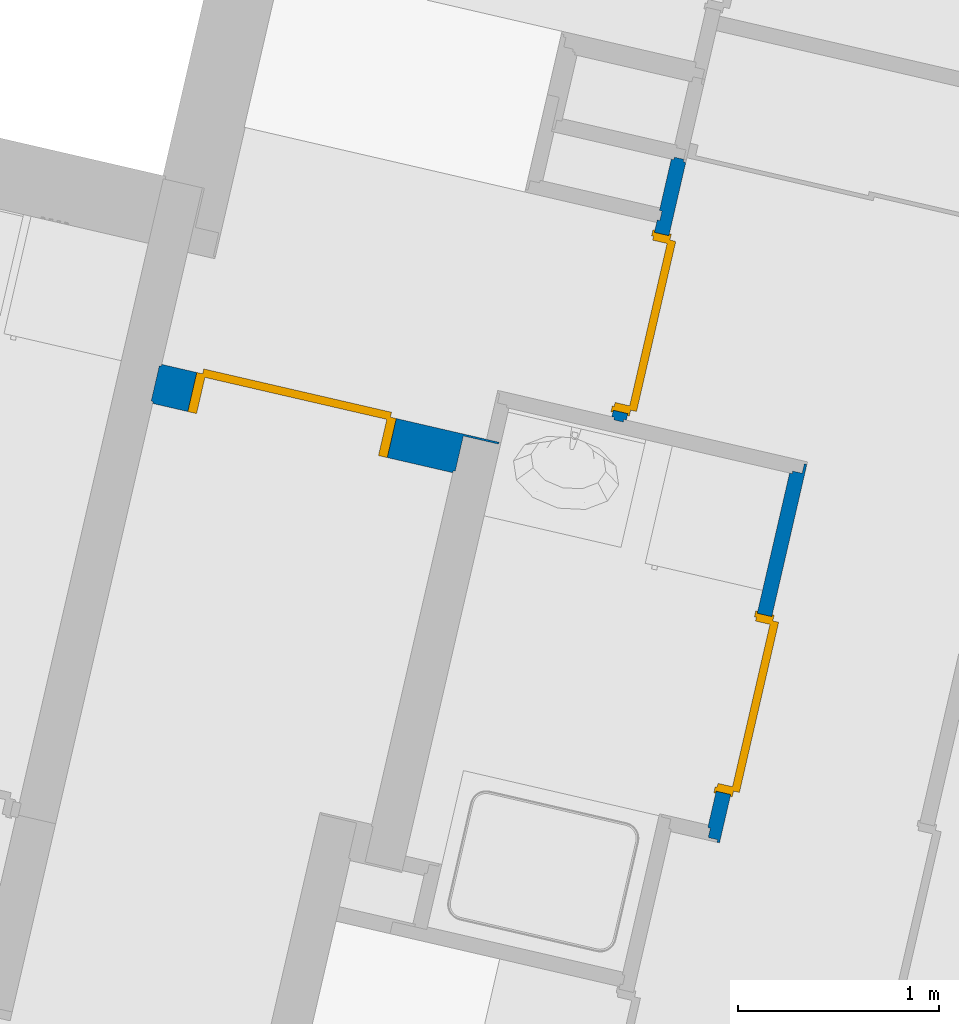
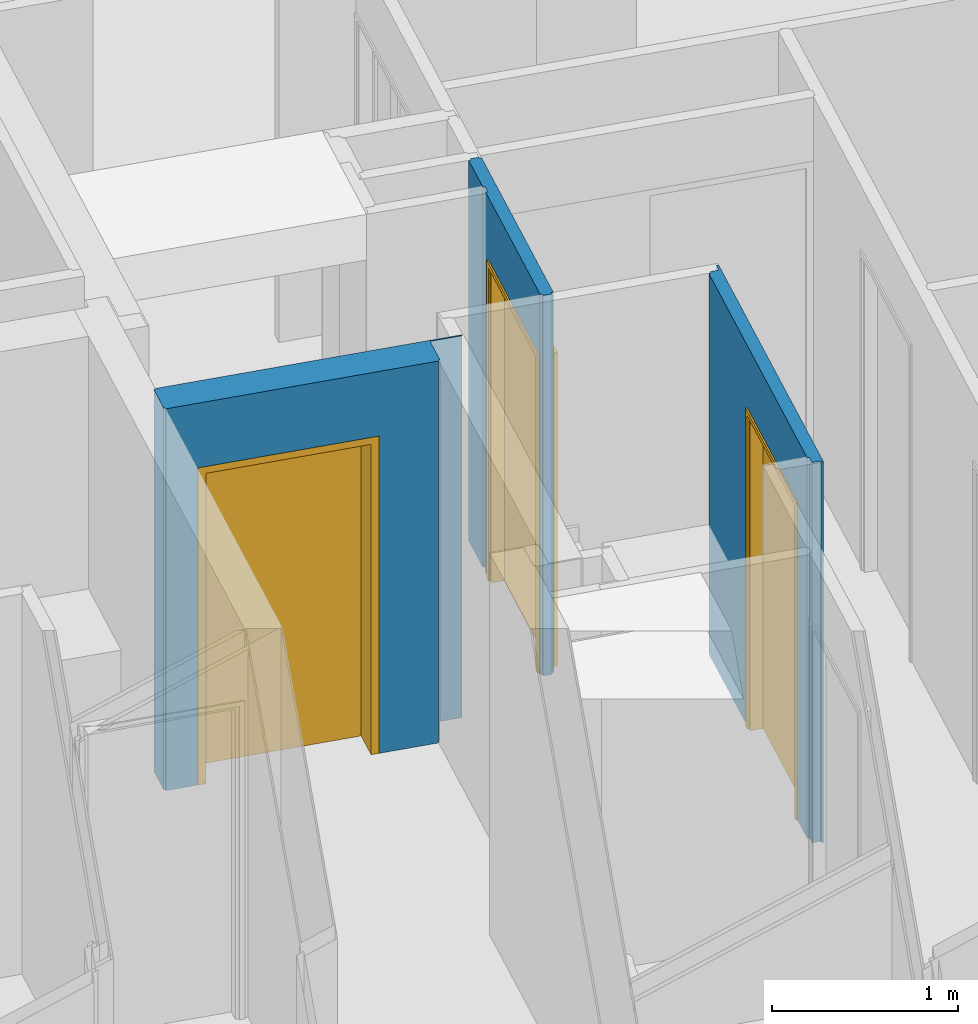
# One storey, part 28 of 91: 3 doors, 3 walls, 3 openings.
"""IFC2X3 building model written with IfcOpenShell, lengths in metres."""

import ifcopenshell
import ifcopenshell.guid

model = None  # the IFC model being written
_history = None  # IfcOwnerHistory: only IFC2X3 demands one
_inside = {}  # id of a spatial element -> (the spatial element, [elements in it])
_under = {}  # id of a project, library or spatial element -> (it, [spatial elements below it])
_declared = {}  # id of a project -> (the project, [libraries it declares])
_typed = {}  # id of a type object -> (the type object, [elements of that type])
_made_of = {}  # id of a material, layer set ... -> (it, [elements and type objects made of it])


def new_model(schema):
    """Start an empty IFC model of exactly this schema.

    Asked for "IFC4X3", IfcOpenShell would pick the latest addendum, in which some entities
    have other attributes; the version numbers below select the first issue.
    IFC2X3 requires an IfcOwnerHistory on every rooted entity: one is made here for all.
    """
    global model, _history
    if schema == "IFC4X3":
        model = ifcopenshell.file(schema_version=(4, 3, 0, 0))
    else:
        model = ifcopenshell.file(schema=schema)
    _inside.clear()
    _under.clear()
    _declared.clear()
    _typed.clear()
    _made_of.clear()
    _history = None
    if model.schema == "IFC2X3":
        org = make("IfcOrganization", Name="unknown")
        user = make(
            "IfcPersonAndOrganization",
            ThePerson=make("IfcPerson", FamilyName="unknown"),
            TheOrganization=org,
        )
        app = make(
            "IfcApplication",
            ApplicationDeveloper=org,
            Version="unknown",
            ApplicationFullName="unknown",
            ApplicationIdentifier="unknown",
        )
        _history = make(
            "IfcOwnerHistory",
            OwningUser=user,
            OwningApplication=app,
            ChangeAction="ADDED",
            CreationDate=0,
        )
    return model


def make(cls, **values):
    """One entity of the class cls with the attributes given. An attribute that is None is left unset."""
    return model.create_entity(
        cls, **{name: value for name, value in values.items() if value is not None}
    )


def entity(cls, *values):
    """Any entity or typed value of the class cls, its attributes in the order of the schema. None: left unset."""
    e = model.create_entity(cls)
    for i, value in enumerate(values):
        if value is not None:
            e[i] = value
    return e


def rooted(cls, **values):
    """An entity with a GlobalId (a new one), such as an element, a storey or a relation."""
    return make(cls, GlobalId=ifcopenshell.guid.new(), OwnerHistory=_history, **values)


def si_unit(unit_type, name, prefix=None):
    """IfcSIUnit, for example si_unit("LENGTHUNIT", "METRE", prefix="MILLI")."""
    return make("IfcSIUnit", UnitType=unit_type, Prefix=prefix, Name=name)


def converted_unit(unit_type, name, factor, base, dimensions=None, offset=None):
    """IfcConversionBasedUnit, such as the inch: factor (a typed value) times the base unit."""
    return make(
        "IfcConversionBasedUnit"
        if offset is None
        else "IfcConversionBasedUnitWithOffset",
        ConversionOffset=offset,
        Dimensions=None
        if dimensions is None
        else entity("IfcDimensionalExponents", *dimensions),
        UnitType=unit_type,
        Name=name,
        ConversionFactor=make(
            "IfcMeasureWithUnit", ValueComponent=factor, UnitComponent=base
        ),
    )


def derived_unit(unit_type, elements):
    """IfcDerivedUnit: a product of units, each with its exponent."""
    return make(
        "IfcDerivedUnit",
        Elements=[
            make("IfcDerivedUnitElement", Unit=unit, Exponent=power)
            for unit, power in elements
        ],
        UnitType=unit_type,
    )


def money_unit(currency):
    """IfcMonetaryUnit."""
    return make("IfcMonetaryUnit", Currency=currency)


def assignment(units):
    """IfcUnitAssignment: the units of a project."""
    return None if units is None else make("IfcUnitAssignment", Units=units)


def point(xyz):
    """IfcCartesianPoint."""
    return None if xyz is None else make("IfcCartesianPoint", Coordinates=xyz)


def direction(xyz):
    """IfcDirection."""
    return None if xyz is None else make("IfcDirection", DirectionRatios=xyz)


def frame(location, z_axis=None, x_axis=None):
    """IfcAxis2Placement3D, a coordinate frame: its origin and axes. An axis left out is left unset."""
    return make(
        "IfcAxis2Placement3D",
        Location=point(location),
        Axis=direction(z_axis),
        RefDirection=direction(x_axis),
    )


def origin_with_axes():
    """The frame at (0, 0, 0) with the z axis (0, 0, 1) and the x axis (1, 0, 0) written out."""
    return frame((0.0, 0.0, 0.0), z_axis=(0.0, 0.0, 1.0), x_axis=(1.0, 0.0, 0.0))


def place(relative_to, where):
    """IfcLocalPlacement: puts the frame where relative to a parent placement (None: the world)."""
    return make(
        "IfcLocalPlacement", PlacementRelTo=relative_to, RelativePlacement=where
    )


def context(
    kind, dimensions, precision=None, world=None, true_north=None, identifier=None
):
    """IfcGeometricRepresentationContext, for example the 3D "Model" context."""
    return make(
        "IfcGeometricRepresentationContext",
        ContextIdentifier=identifier,
        ContextType=kind,
        CoordinateSpaceDimension=dimensions,
        Precision=precision,
        WorldCoordinateSystem=world,
        TrueNorth=true_north,
    )


def subcontext(parent, identifier, kind, view, scale=None):
    """IfcGeometricRepresentationSubContext, for example "Body" below "Model"."""
    return make(
        "IfcGeometricRepresentationSubContext",
        ContextIdentifier=identifier,
        ContextType=kind,
        ParentContext=parent,
        TargetScale=scale,
        TargetView=view,
    )


def project(units=None, contexts=None):
    """IfcProject with its units and contexts."""
    return rooted(
        "IfcProject",
        Name="project",
        RepresentationContexts=contexts,
        UnitsInContext=assignment(units),
    )


def spatial(cls, under=None, at=None, **own):
    """A site, building, storey or space (cls), placed at a placement, below another one or the project."""
    s = rooted(cls, ObjectPlacement=at, **own)
    if under is not None:
        _under.setdefault(under.id(), (under, []))[1].append(s)
    return s


def faces_of(points, faces, orient=None, outer=None):
    """IfcFace entities. A face is a list of loops; a loop is a list of indices into points, from 0.

    orient and outer hold one flag for each loop. By default every Orientation is true, the
    first loop of a face is its IfcFaceOuterBound and the others are IfcFaceBound.
    """
    made = []
    for i, loops in enumerate(faces):
        bounds = []
        for j, loop in enumerate(loops):
            is_outer = j == 0 if outer is None else outer[i][j]
            bounds.append(
                make(
                    "IfcFaceOuterBound" if is_outer else "IfcFaceBound",
                    Bound=make("IfcPolyLoop", Polygon=[points[k] for k in loop]),
                    Orientation=True if orient is None else orient[i][j],
                )
            )
        made.append(make("IfcFace", Bounds=bounds))
    return made


def faceted_brep(points, faces, orient=None, outer=None, voids=None):
    """IfcFacetedBrep: a solid bounded by flat faces; with voids (closed shells), ...WithVoids."""
    shared = [point(p) for p in points]
    hull = make("IfcClosedShell", CfsFaces=faces_of(shared, faces, orient, outer))
    if voids is None:
        return make("IfcFacetedBrep", Outer=hull)
    return make(
        "IfcFacetedBrepWithVoids",
        Outer=hull,
        Voids=[
            make(cls, CfsFaces=faces_of(shared, fs, o, b)) for cls, fs, o, b in voids
        ],
    )


def shape(context_of_items, identifier, shape_type, items):
    """IfcShapeRepresentation: the items that make up one representation, for example the "Body"."""
    return make(
        "IfcShapeRepresentation",
        ContextOfItems=context_of_items,
        RepresentationIdentifier=identifier,
        RepresentationType=shape_type,
        Items=items,
    )


def source(mapping_origin, context_of_items, identifier, shape_type, items):
    """IfcRepresentationMap: a shape defined once, which mapped items show again and again."""
    return make(
        "IfcRepresentationMap",
        MappingOrigin=mapping_origin,
        MappedRepresentation=shape(context_of_items, identifier, shape_type, items),
    )


def transform(
    local_origin,
    x_axis=None,
    y_axis=None,
    z_axis=None,
    scale=None,
    scale2=None,
    scale3=None,
    uniform=True,
):
    """IfcCartesianTransformationOperator3D, or its non-uniform kind. x_axis, y_axis, z_axis: its Axis1, 2, 3."""
    if uniform:
        return make(
            "IfcCartesianTransformationOperator3D",
            Axis1=direction(x_axis),
            Axis2=direction(y_axis),
            LocalOrigin=point(local_origin),
            Scale=scale,
            Axis3=direction(z_axis),
        )
    return make(
        "IfcCartesianTransformationOperator3DnonUniform",
        Axis1=direction(x_axis),
        Axis2=direction(y_axis),
        LocalOrigin=point(local_origin),
        Scale=scale,
        Axis3=direction(z_axis),
        Scale2=scale2,
        Scale3=scale3,
    )


def mapped(mapping_source, mapping_target):
    """IfcMappedItem: shows the shape of a source again, moved by a transform."""
    return make(
        "IfcMappedItem", MappingSource=mapping_source, MappingTarget=mapping_target
    )


def material(Name=None, Category=None):
    """IfcMaterial."""
    return make("IfcMaterial", Name=Name, Category=Category)


def material_list(materials):
    """IfcMaterialList."""
    return make("IfcMaterialList", Materials=materials)


def made_of(thing, what):
    """Note that an element or type object is made of a material, layer set ...; save() writes the relation."""
    if what is not None:
        _made_of.setdefault(what.id(), (what, []))[1].append(thing)
    return thing


def type_object(cls, material=None, **own):
    """A type object (cls), such as IfcWallType, which elements share."""
    return made_of(rooted(cls, **own), material)


def element(
    cls,
    number,
    at=None,
    inside=None,
    cuts=None,
    type_object=None,
    material=None,
    context=None,
    identifier="Body",
    shape_type=None,
    held_by="IfcProductDefinitionShape",
    body=None,
    shapes=None,
    **own,
):
    """One element of the class cls, such as IfcWall. Its Tag is "e" and its number.

    at: its placement. inside: the storey or other place that contains it. cuts: it is an
    opening in that element (IfcRelVoidsElement). A single representation is given by context,
    identifier, shape_type and body (its items); several are given by shapes. held_by: the class
    of the entity that holds the representations. save() writes the other relations.
    """
    e = rooted(cls, Tag="e%d" % number, ObjectPlacement=at, **own)
    if body is not None:
        shapes = [shape(context, identifier, shape_type, body)]
    if shapes is not None:
        e.Representation = make(held_by, Representations=shapes)
    if inside is not None:
        _inside.setdefault(inside.id(), (inside, []))[1].append(e)
    if cuts is not None:
        rooted(
            "IfcRelVoidsElement", RelatingBuildingElement=cuts, RelatedOpeningElement=e
        )
    if type_object is not None:
        _typed.setdefault(type_object.id(), (type_object, []))[1].append(e)
    return made_of(e, material)


def fill(opening, filler):
    """IfcRelFillsElement: the door or window that sits in an opening."""
    return rooted(
        "IfcRelFillsElement",
        RelatingOpeningElement=opening,
        RelatedBuildingElement=filler,
    )


def aggregate(whole, parts):
    """IfcRelAggregates: a whole, such as a stair, and the parts it consists of."""
    return rooted("IfcRelAggregates", RelatingObject=whole, RelatedObjects=parts)


def save(model, path):
    """Write the relations noted so far, then the file.

    IfcRelAggregates (storeys below a building ...), IfcRelContainedInSpatialStructure (elements
    in a storey), IfcRelDefinesByType, IfcRelAssociatesMaterial and IfcRelDeclares: one each for
    every whole, place, type object, material and project.
    """
    for whole, parts in _under.values():
        aggregate(whole, parts)
    for where, things in _inside.values():
        rooted(
            "IfcRelContainedInSpatialStructure",
            RelatedElements=things,
            RelatingStructure=where,
        )
    for kind, things in _typed.values():
        rooted("IfcRelDefinesByType", RelatedObjects=things, RelatingType=kind)
    for what, things in _made_of.values():
        rooted("IfcRelAssociatesMaterial", RelatedObjects=things, RelatingMaterial=what)
    for by, libraries in _declared.values():
        rooted("IfcRelDeclares", RelatingContext=by, RelatedDefinitions=libraries)
    model.write(path)


model = new_model("IFC2X3")

# Units and contexts
model_context = context("Model", 3, precision=1e-05, world=origin_with_axes(), true_north=direction((0.0, 1.0)))
body_context = subcontext(model_context, "Body", "Model", "MODEL_VIEW")
ifc_project = project(units=[si_unit("LENGTHUNIT", "METRE"), si_unit("AREAUNIT", "SQUARE_METRE"), si_unit("VOLUMEUNIT", "CUBIC_METRE"), converted_unit("PLANEANGLEUNIT", "DEGREE", entity("IfcPlaneAngleMeasure", 0.0174532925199), si_unit("PLANEANGLEUNIT", "RADIAN"), dimensions=[0, 0, 0, 0, 0, 0, 0]), si_unit("SOLIDANGLEUNIT", "STERADIAN"), money_unit("EUR"), converted_unit("TIMEUNIT", "Year", entity("IfcTimeMeasure", 31556926.0), si_unit("TIMEUNIT", "SECOND"), dimensions=[0, 0, 1, 0, 0, 0, 0]), si_unit("MASSUNIT", "GRAM", prefix="KILO"), si_unit("THERMODYNAMICTEMPERATUREUNIT", "DEGREE_CELSIUS"), si_unit("LUMINOUSINTENSITYUNIT", "LUMEN"), si_unit("ENERGYUNIT", "JOULE", prefix="MEGA"), derived_unit("THERMALCONDUCTANCEUNIT", [(si_unit("POWERUNIT", "WATT"), 1), (si_unit("LENGTHUNIT", "METRE"), -1), (si_unit("THERMODYNAMICTEMPERATUREUNIT", "KELVIN"), -1)]), derived_unit("SPECIFICHEATCAPACITYUNIT", [(si_unit("ENERGYUNIT", "JOULE"), 1), (si_unit("MASSUNIT", "GRAM", prefix="KILO"), -1), (si_unit("THERMODYNAMICTEMPERATUREUNIT", "KELVIN"), -1)]), derived_unit("MASSDENSITYUNIT", [(si_unit("MASSUNIT", "GRAM", prefix="KILO"), 1), (si_unit("VOLUMEUNIT", "CUBIC_METRE"), -1)])], contexts=[model_context])

# Site, building, storey
site_placement = place(None, origin_with_axes())
site = spatial("IfcSite", under=ifc_project, at=site_placement, Name="Site", CompositionType="ELEMENT")
building_placement = place(site_placement, origin_with_axes())
building = spatial("IfcBuilding", under=site, at=building_placement, Name="Bâtiment", CompositionType="ELEMENT")
storey_placement = place(building_placement, frame((0.0, 0.0, 5.44), z_axis=(0.0, 0.0, 1.0), x_axis=(1.0, 0.0, 0.0)))
storey = spatial("IfcBuildingStorey", under=building, at=storey_placement, Name="R+2", CompositionType="ELEMENT", Elevation=5.44)

# Wall, opening, door
ifc_material_1 = material(Name="Finition int - Plaque de plâtre")
ifc_material_2 = material(Name="Isolation - Laine de roche")
ifc_material_list_1 = material_list([ifc_material_1, ifc_material_2, ifc_material_1])
wall_type_1 = type_object("IfcWallType", Name="3 - Cloison 72mm Placostil 74", PredefinedType="USERDEFINED")
wall_1_placement = place(storey_placement, frame((-5.66502169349, 11.8867106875, 0.0), z_axis=(0.0, 0.0, 1.0), x_axis=(-0.224876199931, -0.97438734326, 0.0)))
wall_1 = element("IfcWall", 1, at=wall_1_placement, inside=storey, type_object=wall_type_1, material=ifc_material_list_1, Name="Cloison Placostil 72/48", ObjectType="PARTITIONING", context=body_context, shape_type="Brep", body=[
    faceted_brep([(1.28450400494, 0.074, 0.0), (1.28450400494, 0.074, 2.08), (0.374504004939, 0.074, 2.08), (0.374504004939, 0.074, 0.0), (0.0, 0.074, 0.0), (0.0, 0.074, 2.5), (1.31746683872, 0.074, 2.5), (1.31746683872, 0.074, 0.0), (1.28450400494, 0.061, 0.0), (1.28450400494, 0.061, 2.08), (0.374504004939, 0.061, 2.08), (0.374504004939, 0.061, 0.0), (0.0, 0.061, 0.0), (0.0, 0.061, 2.5), (1.31746683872, 0.061, 2.5), (1.31746683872, 0.061, 0.0)], [[[0, 1, 2, 3, 4, 5, 6, 7]], [[1, 0, 8, 9]], [[2, 1, 9, 10]], [[3, 2, 10, 11]], [[3, 11, 12, 4]], [[13, 5, 4, 12]], [[5, 13, 14, 6]], [[14, 15, 7, 6]], [[8, 0, 7, 15]], [[9, 8, 15, 14, 13, 12, 11, 10]]]),
    faceted_brep([(1.28450400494, 0.061, 0.0), (1.28450400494, 0.061, 2.08), (0.374504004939, 0.061, 2.08), (0.374504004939, 0.061, 0.0), (-0.0129999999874, 0.061, 0.0), (-0.0129999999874, 0.061, 2.5), (1.33046683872, 0.061, 2.5), (1.33046683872, 0.061, 0.0), (1.28450400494, 0.013, 0.0), (1.28450400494, 0.013, 2.08), (0.374504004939, 0.013, 2.08), (0.374504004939, 0.013, 0.0), (-0.0129999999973, 0.013, 0.0), (-0.0129999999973, 0.013, 2.5), (1.33046683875, 0.013, 2.5), (1.33046683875, 0.013, 0.0)], [[[0, 1, 2, 3, 4, 5, 6, 7]], [[1, 0, 8, 9]], [[2, 1, 9, 10]], [[3, 2, 10, 11]], [[3, 11, 12, 4]], [[13, 5, 4, 12]], [[5, 13, 14, 6]], [[14, 15, 7, 6]], [[8, 0, 7, 15]], [[9, 8, 15, 14, 13, 12, 11, 10]]]),
    faceted_brep([(0.263000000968, 0.013, 0.0), (0.0, 0.013, 0.0), (0.0, 0.013, 2.5), (0.263000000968, 0.013, 2.5), (0.263000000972, 0.0, 0.0), (0.0, 0.0, 0.0), (0.0, 0.0, 2.5), (0.263000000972, 0.0, 2.5)], [[[0, 1, 2, 3]], [[4, 5, 1, 0]], [[5, 6, 2, 1]], [[3, 2, 6, 7]], [[3, 7, 4, 0]], [[7, 6, 5, 4]]]),
    faceted_brep([(1.28450400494, 0.013, 0.0), (1.28450400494, 0.013, 2.08), (0.374504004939, 0.013, 2.08), (0.374504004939, 0.013, 0.0), (0.311000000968, 0.013, 0.0), (0.311000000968, 0.013, 2.5), (1.31746683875, 0.013, 2.5), (1.31746683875, 0.013, 0.0), (1.28450400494, 0.0, 0.0), (1.28450400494, 0.0, 2.08), (0.374504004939, 0.0, 2.08), (0.374504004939, 0.0, 0.0), (0.311000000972, 0.0, 0.0), (0.311000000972, 0.0, 2.5), (1.31746683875, 0.0, 2.5), (1.31746683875, 0.0, 0.0)], [[[0, 1, 2, 3, 4, 5, 6, 7]], [[1, 0, 8, 9]], [[2, 1, 9, 10]], [[3, 2, 10, 11]], [[3, 11, 12, 4]], [[12, 13, 5, 4]], [[13, 14, 6, 5]], [[15, 7, 6, 14]], [[8, 0, 7, 15]], [[9, 8, 15, 14, 13, 12, 11, 10]]]),
])
opening_1_placement = place(wall_1_placement, frame((0.829504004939, 0.0, 0.0), z_axis=(0.0, 0.0, 1.0), x_axis=(1.0, 0.0, 0.0)))
opening_1 = element("IfcOpeningElement", 2, at=opening_1_placement, cuts=wall_1, Name="Por-004", context=body_context, shape_type="Brep", body=[
    faceted_brep([(0.455, -0.074, 0.0), (-0.455, -0.074, 0.0), (-0.455, 0.074, 0.0), (0.455, 0.074, 0.0), (0.455, -0.074, 2.08), (-0.455, -0.074, 2.08), (-0.455, 0.074, 2.08), (0.455, 0.074, 2.08)], [[[0, 1, 2, 3]], [[0, 4, 5, 1]], [[1, 5, 6, 2]], [[3, 2, 6, 7]], [[4, 0, 3, 7]], [[5, 4, 7, 6]]]),
])
door_style_1 = type_object("IfcDoorStyle", Name="Porte int générique 2019", ConstructionType="NOTDEFINED", OperationType="SINGLE_SWING_RIGHT", ParameterTakesPrecedence=False, Sizeable=False)
shared_shape_1 = source(origin_with_axes(), body_context, "Body", "Brep", [
    faceted_brep([(0.455, -0.006, 0.0), (0.415, -0.006, 0.0), (0.415, -0.006, 2.04), (-0.415, -0.006, 2.04), (-0.415, -0.006, 0.0), (-0.455, -0.006, 0.0), (-0.455, -0.006, 2.08), (0.455, -0.006, 2.08), (0.455, -0.08, 0.0), (0.415, -0.08, 0.0), (0.415, -0.08, 2.04), (-0.415, -0.08, 2.04), (-0.415, -0.08, 0.0), (-0.455, -0.08, 0.0), (-0.455, -0.08, 2.08), (0.455, -0.08, 2.08)], [[[0, 1, 2, 3, 4, 5, 6, 7]], [[0, 8, 9, 1]], [[1, 9, 10, 2]], [[2, 10, 11, 3]], [[3, 11, 12, 4]], [[5, 4, 12, 13]], [[14, 6, 5, 13]], [[15, 7, 6, 14]], [[8, 0, 7, 15]], [[9, 8, 15, 14, 13, 12, 11, 10]]]),
    faceted_brep([(0.465, -0.006, 0.0), (0.465, 0.004, 0.0), (0.465, 0.004, 2.09), (0.465, -0.006, 2.09), (0.435, -0.006, 0.0), (0.435, 0.004, 0.0), (0.435, 0.004, 2.06), (-0.435, 0.004, 2.06), (-0.435, 0.004, 0.0), (-0.465, 0.004, 0.0), (-0.465, 0.004, 2.09), (-0.465, -0.006, 2.09), (-0.465, -0.006, 0.0), (-0.435, -0.006, 0.0), (-0.435, -0.006, 2.06), (0.435, -0.006, 2.06)], [[[0, 1, 2, 3]], [[0, 4, 5, 1]], [[1, 5, 6, 7, 8, 9, 10, 2]], [[3, 2, 10, 11]], [[4, 0, 3, 11, 12, 13, 14, 15]], [[5, 4, 15, 6]], [[6, 15, 14, 7]], [[7, 14, 13, 8]], [[12, 9, 8, 13]], [[11, 10, 9, 12]]]),
    faceted_brep([(0.465, -0.09, 0.0), (0.465, -0.08, 0.0), (0.465, -0.08, 2.09), (0.465, -0.09, 2.09), (0.435, -0.09, 0.0), (0.435, -0.08, 0.0), (0.435, -0.08, 2.06), (-0.435, -0.08, 2.06), (-0.435, -0.08, 0.0), (-0.465, -0.08, 0.0), (-0.465, -0.08, 2.09), (-0.465, -0.09, 2.09), (-0.465, -0.09, 0.0), (-0.435, -0.09, 0.0), (-0.435, -0.09, 2.06), (0.435, -0.09, 2.06)], [[[0, 1, 2, 3]], [[0, 4, 5, 1]], [[1, 5, 6, 7, 8, 9, 10, 2]], [[3, 2, 10, 11]], [[4, 0, 3, 11, 12, 13, 14, 15]], [[5, 4, 15, 6]], [[6, 15, 14, 7]], [[7, 14, 13, 8]], [[12, 9, 8, 13]], [[11, 10, 9, 12]]]),
    faceted_brep([(0.435, 0.034, 0.0), (0.435, -0.006, 0.0), (-0.435, -0.006, 0.0), (-0.435, 0.034, 0.0), (0.435, 0.034, 2.06), (0.435, -0.006, 2.06), (-0.435, -0.006, 2.06), (-0.435, 0.034, 2.06)], [[[0, 1, 2, 3]], [[4, 5, 1, 0]], [[1, 5, 6, 2]], [[3, 2, 6, 7]], [[0, 3, 7, 4]], [[7, 6, 5, 4]]]),
])
door_1_placement = place(opening_1_placement, frame((-0.415, 0.0, 0.0), z_axis=(0.0, 0.0, 1.0), x_axis=(1.0, 0.0, 0.0)))
door_1 = element("IfcDoor", 3, at=door_1_placement, inside=storey, type_object=door_style_1, Name="Por-004", ObjectType="DOOR", OverallHeight=2.04, OverallWidth=0.83, context=body_context, shape_type="MappedRepresentation", body=[
    mapped(shared_shape_1, transform((0.415, 0.08, 0.0))),
])
fill(opening_1, door_1)

wall_2_placement = place(storey_placement, frame((-5.42479558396, 8.47996694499, 0.0), z_axis=(0.0, 0.0, 1.0), x_axis=(0.224876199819, 0.974387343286, 0.0)))
wall_2 = element("IfcWall", 4, at=wall_2_placement, inside=storey, type_object=wall_type_1, material=ifc_material_list_1, Name="Cloison Placostil 72/48", ObjectType="PARTITIONING", context=body_context, shape_type="Brep", body=[
    faceted_brep([(0.247023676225, 0.061, 0.0), (0.247023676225, 0.061, 2.08), (1.15702367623, 0.061, 2.08), (1.15702367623, 0.061, 0.0), (1.87400001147, 0.061, 0.0), (1.87400001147, 0.061, 2.5), (0.0609999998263, 0.061, 2.5), (0.0609999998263, 0.061, 0.0), (0.247023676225, 0.074, 0.0), (0.247023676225, 0.074, 2.08), (1.15702367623, 0.074, 2.08), (1.15702367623, 0.074, 0.0), (1.87400001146, 0.074, 0.0), (1.87400001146, 0.074, 2.5), (0.0609999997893, 0.074, 2.5), (0.0609999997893, 0.074, 0.0)], [[[0, 1, 2, 3, 4, 5, 6, 7]], [[1, 0, 8, 9]], [[2, 1, 9, 10]], [[3, 2, 10, 11]], [[3, 11, 12, 4]], [[12, 13, 5, 4]], [[13, 14, 6, 5]], [[15, 7, 6, 14]], [[8, 0, 7, 15]], [[9, 8, 15, 14, 13, 12, 11, 10]]]),
    faceted_brep([(0.247023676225, 0.013, 0.0), (0.247023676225, 0.013, 2.08), (1.15702367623, 0.013, 2.08), (1.15702367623, 0.013, 0.0), (1.88700001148, 0.013, 0.0), (1.88700001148, 0.013, 2.5), (0.012999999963, 0.013, 2.5), (0.012999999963, 0.013, 0.0), (0.247023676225, 0.061, 0.0), (0.247023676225, 0.061, 2.08), (1.15702367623, 0.061, 2.08), (1.15702367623, 0.061, 0.0), (1.88700001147, 0.061, 0.0), (1.88700001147, 0.061, 2.5), (0.0129999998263, 0.061, 2.5), (0.0129999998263, 0.061, 0.0)], [[[0, 1, 2, 3, 4, 5, 6, 7]], [[1, 0, 8, 9]], [[2, 1, 9, 10]], [[3, 2, 10, 11]], [[3, 11, 12, 4]], [[12, 13, 5, 4]], [[13, 14, 6, 5]], [[15, 7, 6, 14]], [[8, 0, 7, 15]], [[9, 8, 15, 14, 13, 12, 11, 10]]]),
    faceted_brep([(0.247023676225, 0.0, 0.0), (0.247023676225, 0.0, 2.08), (1.15702367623, 0.0, 2.08), (1.15702367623, 0.0, 0.0), (1.93500001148, 0.0, 0.0), (1.93500001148, 0.0, 2.5), (0.0, 0.0, 2.5), (0.0, 0.0, 0.0), (0.247023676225, 0.013, 0.0), (0.247023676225, 0.013, 2.08), (1.15702367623, 0.013, 2.08), (1.15702367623, 0.013, 0.0), (1.93500001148, 0.013, 0.0), (1.93500001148, 0.013, 2.5), (0.0, 0.013, 2.5), (0.0, 0.013, 0.0)], [[[0, 1, 2, 3, 4, 5, 6, 7]], [[1, 0, 8, 9]], [[2, 1, 9, 10]], [[3, 2, 10, 11]], [[3, 11, 12, 4]], [[12, 13, 5, 4]], [[13, 14, 6, 5]], [[15, 7, 6, 14]], [[8, 0, 7, 15]], [[9, 8, 15, 14, 13, 12, 11, 10]]]),
])
opening_2_placement = place(wall_2_placement, frame((0.702023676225, 0.0, 0.0), z_axis=(0.0, 0.0, 1.0), x_axis=(1.0, 0.0, 0.0)))
opening_2 = element("IfcOpeningElement", 5, at=opening_2_placement, cuts=wall_2, Name="Porte 83x204 bois alvéolaire", context=body_context, shape_type="Brep", body=[
    faceted_brep([(-0.455, 0.074, 0.0), (0.455, 0.074, 0.0), (0.455, -0.074, 0.0), (-0.455, -0.074, 0.0), (-0.455, 0.074, 2.08), (0.455, 0.074, 2.08), (0.455, -0.074, 2.08), (-0.455, -0.074, 2.08)], [[[0, 1, 2, 3]], [[0, 4, 5, 1]], [[1, 5, 6, 2]], [[3, 2, 6, 7]], [[4, 0, 3, 7]], [[5, 4, 7, 6]]]),
])
shared_shape_2 = source(origin_with_axes(), body_context, "Body", "Brep", [
    faceted_brep([(0.455, 0.0, 0.0), (0.415, 0.0, 0.0), (0.415, 0.0, 2.04), (-0.415, 0.0, 2.04), (-0.415, 0.0, 0.0), (-0.455, 0.0, 0.0), (-0.455, 0.0, 2.08), (0.455, 0.0, 2.08), (0.455, -0.074, 0.0), (0.415, -0.074, 0.0), (0.415, -0.074, 2.04), (-0.415, -0.074, 2.04), (-0.415, -0.074, 0.0), (-0.455, -0.074, 0.0), (-0.455, -0.074, 2.08), (0.455, -0.074, 2.08)], [[[0, 1, 2, 3, 4, 5, 6, 7]], [[0, 8, 9, 1]], [[1, 9, 10, 2]], [[2, 10, 11, 3]], [[3, 11, 12, 4]], [[5, 4, 12, 13]], [[14, 6, 5, 13]], [[15, 7, 6, 14]], [[8, 0, 7, 15]], [[9, 8, 15, 14, 13, 12, 11, 10]]]),
    faceted_brep([(0.465, 0.0, 0.0), (0.465, 0.01, 0.0), (0.465, 0.01, 2.09), (0.465, 0.0, 2.09), (0.435, 0.0, 0.0), (0.435, 0.01, 0.0), (0.435, 0.01, 2.06), (-0.435, 0.01, 2.06), (-0.435, 0.01, 0.0), (-0.465, 0.01, 0.0), (-0.465, 0.01, 2.09), (-0.465, 0.0, 2.09), (-0.465, 0.0, 0.0), (-0.435, 0.0, 0.0), (-0.435, 0.0, 2.06), (0.435, 0.0, 2.06)], [[[0, 1, 2, 3]], [[0, 4, 5, 1]], [[1, 5, 6, 7, 8, 9, 10, 2]], [[3, 2, 10, 11]], [[4, 0, 3, 11, 12, 13, 14, 15]], [[5, 4, 15, 6]], [[6, 15, 14, 7]], [[7, 14, 13, 8]], [[12, 9, 8, 13]], [[11, 10, 9, 12]]]),
    faceted_brep([(0.465, -0.084, 0.0), (0.465, -0.074, 0.0), (0.465, -0.074, 2.09), (0.465, -0.084, 2.09), (0.435, -0.084, 0.0), (0.435, -0.074, 0.0), (0.435, -0.074, 2.06), (-0.435, -0.074, 2.06), (-0.435, -0.074, 0.0), (-0.465, -0.074, 0.0), (-0.465, -0.074, 2.09), (-0.465, -0.084, 2.09), (-0.465, -0.084, 0.0), (-0.435, -0.084, 0.0), (-0.435, -0.084, 2.06), (0.435, -0.084, 2.06)], [[[0, 1, 2, 3]], [[0, 4, 5, 1]], [[1, 5, 6, 7, 8, 9, 10, 2]], [[3, 2, 10, 11]], [[4, 0, 3, 11, 12, 13, 14, 15]], [[5, 4, 15, 6]], [[6, 15, 14, 7]], [[7, 14, 13, 8]], [[12, 9, 8, 13]], [[11, 10, 9, 12]]]),
    faceted_brep([(0.435, 0.04, 0.0), (0.435, 0.0, 0.0), (-0.435, 0.0, 0.0), (-0.435, 0.04, 0.0), (0.435, 0.04, 2.06), (0.435, 0.0, 2.06), (-0.435, 0.0, 2.06), (-0.435, 0.04, 2.06)], [[[0, 1, 2, 3]], [[4, 5, 1, 0]], [[1, 5, 6, 2]], [[3, 2, 6, 7]], [[0, 3, 7, 4]], [[7, 6, 5, 4]]]),
])
door_2_placement = place(opening_2_placement, frame((0.415, 0.0, 0.0), z_axis=(0.0, 0.0, 1.0), x_axis=(-1.0, 0.0, 0.0)))
door_2 = element("IfcDoor", 6, at=door_2_placement, inside=storey, type_object=door_style_1, Name="Porte 83x204 bois alvéolaire", ObjectType="DOOR", OverallHeight=2.04, OverallWidth=0.83, context=body_context, shape_type="MappedRepresentation", body=[
    mapped(shared_shape_2, transform((0.415, 0.0, 0.0))),
])
fill(opening_2, door_2)

ifc_material_3 = material(Name="Finition int - Enduit plâtre")
ifc_material_4 = material(Name="Béton")
ifc_material_list_2 = material_list([ifc_material_3, ifc_material_4, ifc_material_3])
wall_type_2 = type_object("IfcWallType", Name="2 - Murs Béton 18 + Enduit 2 Faces 200", PredefinedType="USERDEFINED")
wall_3_placement = place(storey_placement, frame((-6.75353951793, 10.3240004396, 0.0), z_axis=(0.0, 0.0, 1.0), x_axis=(-0.974387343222, 0.224876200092, 0.0)))
wall_3 = element("IfcWall", 7, at=wall_3_placement, inside=storey, type_object=wall_type_2, material=ifc_material_list_2, Name="M_Ext-008", ObjectType="SOLIDWALL", context=body_context, shape_type="Brep", body=[
    faceted_brep([(1.35532303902, -0.01, 2.085), (1.35532303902, -0.01, 0.0), (1.53499999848, -0.01, 0.0), (1.53499999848, -0.01, 2.51), (0.0, -0.01, 2.51), (0.0, -0.01, 0.0), (0.335323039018, -0.01, 0.0), (0.335323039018, -0.01, 2.085), (1.35532303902, 0.0, 2.085), (1.35532303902, 0.0, 0.0), (1.53499999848, 0.0, 0.0), (1.53499999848, 0.0, 2.51), (0.0, 0.0, 2.51), (0.0, 0.0, 0.0), (0.335323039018, 0.0, 0.0), (0.335323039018, 0.0, 2.085)], [[[0, 1, 2, 3, 4, 5, 6, 7]], [[1, 0, 8, 9]], [[1, 9, 10, 2]], [[3, 2, 10, 11]], [[11, 12, 4, 3]], [[4, 12, 13, 5]], [[14, 6, 5, 13]], [[7, 6, 14, 15]], [[0, 7, 15, 8]], [[15, 14, 13, 12, 11, 10, 9, 8]]]),
    faceted_brep([(1.35532303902, -0.19, 2.085), (1.35532303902, -0.19, 0.0), (1.54499999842, -0.19, 0.0), (1.54499999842, -0.19, 2.51), (-0.00999999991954, -0.19, 2.51), (-0.00999999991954, -0.19, 0.0), (0.335323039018, -0.19, 0.0), (0.335323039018, -0.19, 2.085), (1.35532303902, -0.01, 2.085), (1.35532303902, -0.01, 0.0), (1.54499999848, -0.01, 0.0), (1.54499999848, -0.01, 2.51), (-0.00999999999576, -0.01, 2.51), (-0.00999999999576, -0.01, 0.0), (0.335323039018, -0.01, 0.0), (0.335323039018, -0.01, 2.085)], [[[0, 1, 2, 3, 4, 5, 6, 7]], [[1, 0, 8, 9]], [[1, 9, 10, 2]], [[3, 2, 10, 11]], [[11, 12, 4, 3]], [[4, 12, 13, 5]], [[14, 6, 5, 13]], [[7, 6, 14, 15]], [[0, 7, 15, 8]], [[15, 14, 13, 12, 11, 10, 9, 8]]]),
    faceted_brep([(1.35532303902, -0.2, 2.085), (1.35532303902, -0.2, 0.0), (1.53499999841, -0.2, 0.0), (1.53499999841, -0.2, 2.51), (-0.189999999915, -0.2, 2.51), (-0.189999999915, -0.2, 0.0), (0.335323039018, -0.2, 0.0), (0.335323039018, -0.2, 2.085), (1.35532303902, -0.19, 2.085), (1.35532303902, -0.19, 0.0), (1.53499999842, -0.19, 0.0), (1.53499999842, -0.19, 2.51), (-0.18999999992, -0.19, 2.51), (-0.18999999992, -0.19, 0.0), (0.335323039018, -0.19, 0.0), (0.335323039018, -0.19, 2.085)], [[[0, 1, 2, 3, 4, 5, 6, 7]], [[1, 0, 8, 9]], [[1, 9, 10, 2]], [[3, 2, 10, 11]], [[11, 12, 4, 3]], [[4, 12, 13, 5]], [[14, 6, 5, 13]], [[7, 6, 14, 15]], [[0, 7, 15, 8]], [[15, 14, 13, 12, 11, 10, 9, 8]]]),
])
opening_3_placement = place(wall_3_placement, frame((0.845323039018, 0.0, 0.0), z_axis=(0.0, 0.0, 1.0), x_axis=(1.0, 0.0, 0.0)))
opening_3 = element("IfcOpeningElement", 8, at=opening_3_placement, cuts=wall_3, Name="Porte 93x204 bois blindée", context=body_context, shape_type="Brep", body=[
    faceted_brep([(0.51, -0.2, 0.0), (-0.51, -0.2, 0.0), (-0.51, 0.2, 0.0), (0.51, 0.2, 0.0), (0.51, -0.2, 2.085), (-0.51, -0.2, 2.085), (-0.51, 0.2, 2.085), (0.51, 0.2, 2.085)], [[[0, 1, 2, 3]], [[0, 4, 5, 1]], [[1, 5, 6, 2]], [[3, 2, 6, 7]], [[4, 0, 3, 7]], [[5, 4, 7, 6]]]),
])
door_style_2 = type_object("IfcDoorStyle", Name="Porte int générique 2019", ConstructionType="NOTDEFINED", OperationType="SINGLE_SWING_LEFT", ParameterTakesPrecedence=False, Sizeable=False)
shared_shape_3 = source(origin_with_axes(), body_context, "Body", "Brep", [
    faceted_brep([(-0.51, 0.0, 0.0), (-0.51, 0.0, 2.085), (0.51, 0.0, 2.085), (0.51, 0.0, 0.0), (0.48, 0.0, 0.0), (0.48, 0.0, 2.055), (-0.48, 0.0, 2.055), (-0.48, 0.0, 0.0), (-0.51, -0.2, 0.0), (-0.51, -0.2, 2.085), (0.51, -0.2, 2.085), (0.51, -0.2, 0.0), (0.465, -0.2, 0.0), (0.465, -0.015, 0.0), (0.48, -0.015, 0.0), (0.48, -0.015, 2.055), (-0.48, -0.015, 2.055), (-0.48, -0.015, 0.0), (-0.465, -0.015, 0.0), (-0.465, -0.2, 0.0), (-0.465, -0.2, 2.04), (0.465, -0.2, 2.04), (0.465, -0.015, 2.04), (-0.465, -0.015, 2.04)], [[[0, 1, 2, 3, 4, 5, 6, 7]], [[8, 9, 1, 0]], [[9, 10, 2, 1]], [[10, 11, 3, 2]], [[3, 11, 12, 13, 14, 4]], [[5, 4, 14, 15]], [[6, 5, 15, 16]], [[7, 6, 16, 17]], [[0, 7, 17, 18, 19, 8]], [[19, 20, 21, 12, 11, 10, 9, 8]], [[22, 13, 12, 21]], [[17, 16, 15, 14, 13, 22, 23, 18]], [[18, 23, 20, 19]], [[23, 22, 21, 20]]]),
    faceted_brep([(-0.48, 0.025, 0.0), (0.48, 0.025, 0.0), (0.48, -0.015, 0.0), (-0.48, -0.015, 0.0), (-0.48, 0.025, 2.055), (0.48, 0.025, 2.055), (0.48, -0.015, 2.055), (-0.48, -0.015, 2.055)], [[[0, 1, 2, 3]], [[0, 4, 5, 1]], [[1, 5, 6, 2]], [[3, 2, 6, 7]], [[4, 0, 3, 7]], [[5, 4, 7, 6]]]),
])
door_3_placement = place(opening_3_placement, frame((0.465, 0.0, 0.0), z_axis=(0.0, 0.0, 1.0), x_axis=(-1.0, 0.0, 0.0)))
door_3 = element("IfcDoor", 9, at=door_3_placement, inside=storey, type_object=door_style_2, Name="Porte 93x204 bois blindée", ObjectType="DOOR", OverallHeight=2.04, OverallWidth=0.93, context=body_context, shape_type="MappedRepresentation", body=[
    mapped(shared_shape_3, transform((0.465, 0.2, 0.0))),
])
fill(opening_3, door_3)

save(model, "model.ifc")
